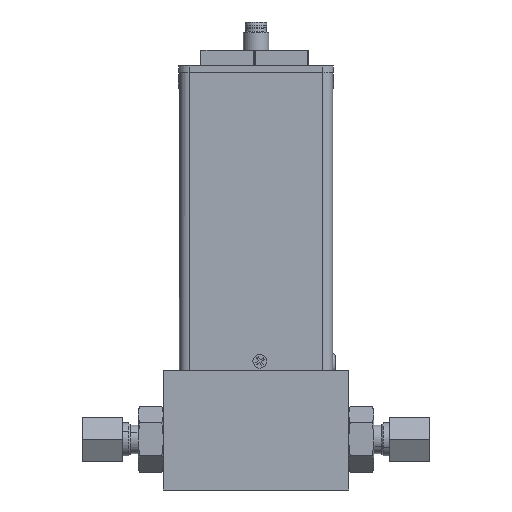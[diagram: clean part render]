
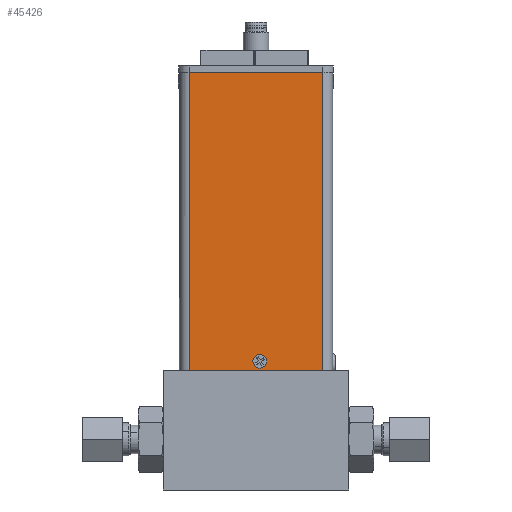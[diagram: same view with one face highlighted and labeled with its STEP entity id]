
A CAD part, front view. The second image highlights one B-rep face of the part: STEP entity #45426.
In plain terms, the highlighted planar face has unit normal (0, -1, 0).
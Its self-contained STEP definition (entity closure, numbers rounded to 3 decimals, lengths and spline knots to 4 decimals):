
#976 = EDGE_LOOP ( 'NONE', ( #7335, #43634, #5134, #26200 ) ) ;
#1261 = CIRCLE ( 'NONE', #32471, 0.063 ) ;
#1859 = CARTESIAN_POINT ( 'NONE',  ( 0.2023, 0.0092, 1.4853 ) ) ;
#3477 = CARTESIAN_POINT ( 'NONE',  ( 1.0776, 0.0092, 1.6031 ) ) ;
#4964 = EDGE_LOOP ( 'NONE', ( #6194, #32422 ) ) ;
#5134 = ORIENTED_EDGE ( 'NONE', *, *, #49912, .T. ) ;
#6194 = ORIENTED_EDGE ( 'NONE', *, *, #27046, .T. ) ;
#7011 = CARTESIAN_POINT ( 'NONE',  ( 1.0776, 0.0092, 1.6031 ) ) ;
#7139 = VECTOR ( 'NONE', #52934, 39.3701 ) ;
#7335 = ORIENTED_EDGE ( 'NONE', *, *, #36827, .T. ) ;
#9640 = DIRECTION ( 'NONE',  ( 0., 0., 1. ) ) ;
#11903 = DIRECTION ( 'NONE',  ( 0., 0., 1. ) ) ;
#13022 = DIRECTION ( 'NONE',  ( 0., 0., -1. ) ) ;
#13627 = DIRECTION ( 'NONE',  ( 0., 0., -1. ) ) ;
#15416 = LINE ( 'NONE', #35556, #7139 ) ;
#16421 = LINE ( 'NONE', #29209, #22798 ) ;
#16497 = CARTESIAN_POINT ( 'NONE',  ( 1.8583, 0.0092, 1.4849 ) ) ;
#17261 = AXIS2_PLACEMENT_3D ( 'NONE', #7011, #23571, #40174 ) ;
#17709 = CARTESIAN_POINT ( 'NONE',  ( 1.0303, 0.0092, 1.4851 ) ) ;
#18242 = FACE_BOUND ( 'NONE', #4964, .T. ) ;
#19279 = VECTOR ( 'NONE', #13022, 39.3701 ) ;
#19522 = DIRECTION ( 'NONE',  ( 0., 1., 0. ) ) ;
#19792 = VERTEX_POINT ( 'NONE', #49782 ) ;
#20442 = VERTEX_POINT ( 'NONE', #1859 ) ;
#21849 = LINE ( 'NONE', #46891, #27908 ) ;
#22798 = VECTOR ( 'NONE', #32208, 39.3701 ) ;
#22998 = VERTEX_POINT ( 'NONE', #34591 ) ;
#23245 = VERTEX_POINT ( 'NONE', #25008 ) ;
#23571 = DIRECTION ( 'NONE',  ( 0., 1., 0. ) ) ;
#25008 = CARTESIAN_POINT ( 'NONE',  ( 0.2033, 0.0092, 5.1999 ) ) ;
#26200 = ORIENTED_EDGE ( 'NONE', *, *, #48879, .T. ) ;
#26845 = CARTESIAN_POINT ( 'NONE',  ( 1.8593, 0.0092, 5.1994 ) ) ;
#27046 = EDGE_CURVE ( 'NONE', #19792, #22998, #1261, .T. ) ;
#27908 = VECTOR ( 'NONE', #9640, 39.3701 ) ;
#29209 = CARTESIAN_POINT ( 'NONE',  ( 1.0303, 0.0092, 1.4851 ) ) ;
#29320 = LINE ( 'NONE', #41024, #19279 ) ;
#30275 = AXIS2_PLACEMENT_3D ( 'NONE', #17709, #51406, #13627 ) ;
#32208 = DIRECTION ( 'NONE',  ( 1., 0., 0. ) ) ;
#32422 = ORIENTED_EDGE ( 'NONE', *, *, #45954, .T. ) ;
#32471 = AXIS2_PLACEMENT_3D ( 'NONE', #3477, #19522, #11903 ) ;
#34591 = CARTESIAN_POINT ( 'NONE',  ( 1.0776, 0.0092, 1.5401 ) ) ;
#34819 = PLANE ( 'NONE',  #30275 ) ;
#35556 = CARTESIAN_POINT ( 'NONE',  ( 1.0313, 0.0092, 5.1996 ) ) ;
#36571 = EDGE_CURVE ( 'NONE', #23245, #20442, #29320, .T. ) ;
#36827 = EDGE_CURVE ( 'NONE', #53245, #23245, #15416, .T. ) ;
#39173 = FACE_OUTER_BOUND ( 'NONE', #976, .T. ) ;
#40174 = DIRECTION ( 'NONE',  ( 0., 0., 1. ) ) ;
#41024 = CARTESIAN_POINT ( 'NONE',  ( 0.2023, 0.0092, 1.4853 ) ) ;
#41260 = VERTEX_POINT ( 'NONE', #16497 ) ;
#43634 = ORIENTED_EDGE ( 'NONE', *, *, #36571, .T. ) ;
#44211 = CIRCLE ( 'NONE', #17261, 0.063 ) ;
#45426 = ADVANCED_FACE ( 'NONE', ( #39173, #18242 ), #34819, .T. ) ;
#45954 = EDGE_CURVE ( 'NONE', #22998, #19792, #44211, .T. ) ;
#46891 = CARTESIAN_POINT ( 'NONE',  ( 1.8583, 0.0092, 1.4849 ) ) ;
#48879 = EDGE_CURVE ( 'NONE', #41260, #53245, #21849, .T. ) ;
#49782 = CARTESIAN_POINT ( 'NONE',  ( 1.0776, 0.0092, 1.6661 ) ) ;
#49912 = EDGE_CURVE ( 'NONE', #20442, #41260, #16421, .T. ) ;
#51406 = DIRECTION ( 'NONE',  ( 0., -1., 0. ) ) ;
#52934 = DIRECTION ( 'NONE',  ( -1., 0., 0. ) ) ;
#53245 = VERTEX_POINT ( 'NONE', #26845 ) ;
